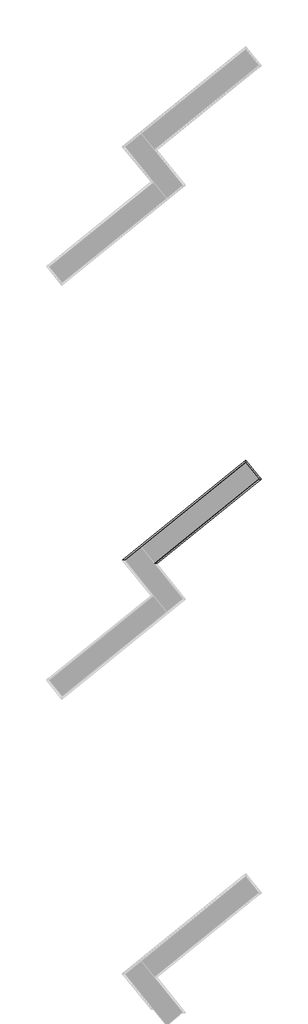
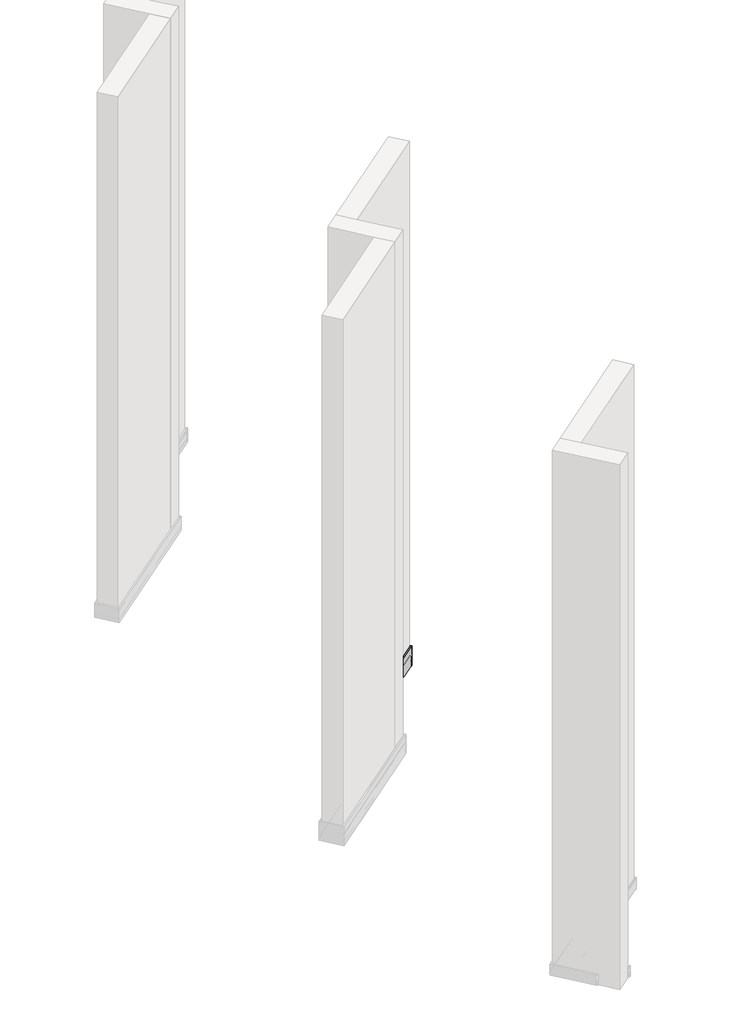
# One storey, part 10 of 21: 2 proxies.
"""IFC4 building model written with IfcOpenShell, lengths in millimetres."""

from ifc_helpers import new_model, si_unit, frame, origin, place, context, project, spatial, circle_curve, ellipse_curve, element, save
from ifc_brep_helpers import plane_surface, cylinder_surface, advanced_brep

model = new_model("IFC4")

# Units and contexts
model_context = context("Model", 3, world=origin())
ifc_project = project(units=[si_unit("LENGTHUNIT", "METRE", prefix="MILLI")], contexts=[model_context])

# Site, building, storey
site = spatial("IfcSite", under=ifc_project)
building = spatial("IfcBuilding", under=site)
storey = spatial("IfcBuildingStorey", under=building, Name="Izofleks 2D View", Elevation=0.0)

# Proxies
placement = place(None, origin())
element("IfcBuildingElementProxy", 1, Name="Wall Sweeps", at=placement, inside=storey, context=model_context, shape_type="AdvancedBrep", body=[
    advanced_brep(
    [(2291.5537649, -5174.0238176, 49.9746979), (2293.3982189, -5174.2176775, 48.8483083), (2292.7262724, -5174.1470531, 47.88979), (2289.8664199, -5173.8464705, 47.88979), (2289.8664199, -5173.8464705, 53.99999), (2288.0380278, -5173.6542987, 54.99999), (2288.0380278, -5173.6542987, 0.0), (2289.8664199, -5173.8464705, 0.0), (2289.8664199, -5173.8464705, 16.99999), (2296.8983438, -5174.5855554, 16.99999), (2296.8922655, -5174.5849166, 18.30079), (2294.6001982, -5174.3440106, 18.30079), (2297.3367663, -5174.6316355, 27.1404306), (2296.6513787, -5174.5595984, 27.7479135), (2295.2879611, -5174.4162974, 27.7479135), (2295.5576132, -5174.444639, 28.7655004), (2298.9439622, -5174.8005586, 28.7655004), (2298.9439622, -5174.8005586, 4.2583289), (2296.1306076, -5174.5048631, 4.2583289), (2296.1306076, -5174.5048631, 0.4656126), (2297.9590138, -5174.6970364, 0.4656126), (2297.9590138, -5174.6970364, 2.9583289), (2300.7723685, -5174.9927318, 2.9583289), (2300.7723685, -5174.9927318, 104.9583814), (2292.3335659, -5174.105778, 104.9583814), (2292.3335659, -5174.105778, 102.9584585), (2289.5206376, -5173.8101273, 102.9584585), (2289.5206376, -5173.8101273, 101.6584596), (2294.4432653, -5174.3275163, 101.6584596), (2294.4432653, -5174.3275163, 103.6583819), (2298.9439622, -5174.8005586, 103.6583819), (2298.9439622, -5174.8005586, 59.6553004), (2295.2404015, -5174.4112987, 59.6553004), (2293.8573559, -5174.2659347, 58.8370339), (2795.1255307, -4763.0229354, 49.9746979), (2796.3983848, -4761.9921985, 58.8370339), (2797.1625896, -4761.3733576, 59.6553004), (2799.2089999, -4759.7162072, 59.6553004), (2799.2089999, -4759.7162072, 103.6583819), (2796.7221303, -4761.7300345, 103.6583819), (2796.7221303, -4761.7300345, 101.6584596), (2794.0021219, -4763.9326539, 101.6584596), (2794.0021219, -4763.9326539, 102.9584585), (2795.5564114, -4762.6740151, 102.9584585), (2795.5564114, -4762.6740151, 104.9583814), (2800.2192896, -4758.8980907, 104.9583814), (2800.2192896, -4758.8980907, 2.9583289), (2798.6647646, -4760.1569203, 2.9583289), (2798.6647646, -4760.1569203, 0.4656126), (2797.6544748, -4760.9750368, 0.4656126), (2797.6544748, -4760.9750368, 4.2583289), (2799.2089999, -4759.7162072, 4.2583289), (2799.2089999, -4759.7162072, 28.7655004), (2797.3378655, -4761.2314219, 28.7655004), (2797.1888688, -4761.3520772, 27.7479135), (2797.942228, -4760.7420189, 27.7479135), (2798.3209404, -4760.4353436, 27.1404306), (2796.8088439, -4761.6598152, 18.30079), (2798.0753305, -4760.6342346, 18.30079), (2798.0786891, -4760.6315149, 16.99999), (2794.1931847, -4763.7779343, 16.99999), (2794.1931847, -4763.7779343, 0.0), (2793.1829027, -4764.5960445, 0.0), (2793.1829027, -4764.5960445, 54.99999), (2794.1931847, -4763.7779343, 53.99999), (2794.1931847, -4763.7779343, 47.88979), (2795.7734022, -4762.4982994, 47.88979), (2796.1446877, -4762.1976383, 48.8483083), (2796.6986398, -4764.9655634, 49.9746979), (2799.0022309, -4765.2076806, 58.8370339), (2800.3852765, -4765.3530445, 59.6553004), (2804.0888372, -4765.7423044, 59.6553004), (2804.0888372, -4765.7423044, 103.6583819), (2799.5881403, -4765.2692621, 103.6583819), (2799.5881403, -4765.2692621, 101.6584596), (2794.6655126, -4764.7518731, 101.6584596), (2794.6655126, -4764.7518731, 102.9584585), (2797.4784408, -4765.0475238, 102.9584585), (2797.4784408, -4765.0475238, 104.9583814), (2805.9172434, -4765.9344777, 104.9583814), (2805.9172434, -4765.9344777, 2.9583289), (2803.1038888, -4765.6387822, 2.9583289), (2803.1038888, -4765.6387822, 0.4656126), (2801.2754825, -4765.4466089, 0.4656126), (2801.2754825, -4765.4466089, 4.2583289), (2804.0888372, -4765.7423044, 4.2583289), (2804.0888372, -4765.7423044, 28.7655004), (2800.7024881, -4765.3863848, 28.7655004), (2800.4328361, -4765.3580432, 27.7479135), (2801.7962536, -4765.5013442, 27.7479135), (2802.4816413, -4765.5733813, 27.1404306), (2799.7450732, -4765.2857564, 18.30079), (2802.0371404, -4765.5266624, 18.30079), (2802.0432188, -4765.5273013, 16.99999), (2795.0112949, -4764.7882163, 16.99999), (2795.0112949, -4764.7882163, 0.0), (2795.0112949, -4764.7882163, 53.99999), (2795.0112949, -4764.7882163, 47.88979), (2797.8711473, -4765.0887989, 47.88979), (2798.5430938, -4765.1594233, 48.8483083)],
    [
        (0, 1, ellipse_curve(frame((2292.9368105, -5174.1691815, 49.7929644), z_axis=(-0.10452846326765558, -0.9945218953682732, 0.0), x_axis=(0.9945218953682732, -0.10452846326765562, 0.0)), 1.4142136, 1.0)),
        (1, 2),
        (2, 3),
        (3, 4),
        (4, 5, ellipse_curve(frame((2288.3885058, -5173.6911354, 53.9789482), z_axis=(-0.10452846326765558, -0.9945218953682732, 0.0), x_axis=(0.9945218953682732, -0.10452846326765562, 0.0)), 1.4863528, 1.0510102)),
        (5, 6),
        (6, 7),
        (7, 8),
        (8, 9),
        (9, 10, ellipse_curve(frame((2296.7280877, -5174.5676608, 17.649995), z_axis=(-0.10452846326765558, -0.9945218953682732, 0.0), x_axis=(0.9945218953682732, -0.10452846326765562, 0.0)), 0.935051, 0.6611809)),
        (10, 11),
        (11, 12),
        (12, 13, ellipse_curve(frame((2296.6499722, -5174.5594505, 27.2479135), z_axis=(-0.10452846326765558, -0.9945218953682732, 0.0), x_axis=(0.9945218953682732, -0.10452846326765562, 0.0)), 0.7071082, 0.500001)),
        (13, 14),
        (14, 15),
        (15, 16),
        (16, 17),
        (17, 18),
        (18, 19),
        (19, 20),
        (20, 21),
        (21, 22),
        (22, 23),
        (23, 24),
        (24, 25),
        (25, 26),
        (26, 27),
        (27, 28),
        (28, 29),
        (29, 30),
        (30, 31),
        (31, 32),
        (32, 33, ellipse_curve(frame((2295.2404015, -5174.4112987, 58.6553004), z_axis=(-0.10452846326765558, -0.9945218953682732, 0.0), x_axis=(0.9945218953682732, -0.10452846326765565, 0.0)), 1.4142136, 1.0)),
        (33, 0),
        (34, 35),
        (35, 36, circle_curve(frame((2797.1625896, -4761.3733576, 58.6553004), z_axis=(-0.6293203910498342, 0.7771459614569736, 0.0), x_axis=(-0.7642047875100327, -0.6188408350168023, 0.18173349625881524)), 1.0)),
        (36, 37),
        (37, 38),
        (38, 39),
        (39, 40),
        (40, 41),
        (41, 42),
        (42, 43),
        (43, 44),
        (44, 45),
        (45, 46),
        (46, 47),
        (47, 48),
        (48, 49),
        (49, 50),
        (50, 51),
        (51, 52),
        (52, 53),
        (53, 54),
        (54, 55),
        (55, 56, circle_curve(frame((2797.9414508, -4760.7426482, 27.2479135), z_axis=(-0.6293203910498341, 0.7771459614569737, 0.0), x_axis=(0.7771459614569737, 0.6293203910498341, 0.0)), 0.500001)),
        (56, 57),
        (57, 58),
        (58, 59, circle_curve(frame((2797.9846137, -4760.7076956, 17.649995), z_axis=(-0.6293203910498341, 0.7771459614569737, 0.0), x_axis=(0.7771459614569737, 0.6293203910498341, 0.0)), 0.6611809)),
        (59, 60),
        (60, 61),
        (61, 62),
        (62, 63),
        (63, 64, circle_curve(frame((2793.3765601, -4764.4392239, 53.9789482), z_axis=(-0.6293203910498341, 0.7771459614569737, 0.0), x_axis=(0.7771459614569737, 0.6293203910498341, 0.0)), 1.0510102)),
        (64, 65),
        (65, 66),
        (66, 67),
        (67, 34, circle_curve(frame((2795.8897355, -4762.4040945, 49.7929644), z_axis=(-0.6293203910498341, 0.7771459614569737, 0.0), x_axis=(0.7771459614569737, 0.6293203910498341, 0.0)), 1.0)),
        (34, 68),
        (68, 69),
        (69, 35),
        (69, 70, ellipse_curve(frame((2800.3852765, -4765.3530445, 58.6553004), z_axis=(0.10452846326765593, 0.994521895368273, 0.0), x_axis=(-0.994521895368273, 0.10452846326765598, 0.0)), 1.4142136, 1.0)),
        (70, 36),
        (70, 71),
        (71, 37),
        (71, 72),
        (72, 38),
        (72, 73),
        (73, 39),
        (73, 74),
        (74, 40),
        (74, 75),
        (75, 41),
        (75, 76),
        (76, 42),
        (76, 77),
        (77, 43),
        (77, 78),
        (78, 44),
        (78, 79),
        (79, 45),
        (79, 80),
        (80, 46),
        (80, 81),
        (81, 47),
        (81, 82),
        (82, 48),
        (82, 83),
        (83, 49),
        (83, 84),
        (84, 50),
        (84, 85),
        (85, 51),
        (85, 86),
        (86, 52),
        (86, 87),
        (87, 53),
        (87, 88),
        (88, 54),
        (88, 89),
        (89, 55),
        (89, 90, ellipse_curve(frame((2801.7948471, -4765.5011964, 27.2479135), z_axis=(0.1045284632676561, 0.994521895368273, 0.0), x_axis=(-0.994521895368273, 0.10452846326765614, 0.0)), 0.7071082, 0.500001)),
        (90, 56),
        (90, 91),
        (91, 57),
        (91, 92),
        (92, 58),
        (92, 93, ellipse_curve(frame((2801.8729627, -4765.5094066, 17.649995), z_axis=(0.1045284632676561, 0.994521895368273, 0.0), x_axis=(-0.994521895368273, 0.10452846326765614, 0.0)), 0.935051, 0.6611809)),
        (93, 59),
        (93, 94),
        (94, 60),
        (94, 95),
        (95, 61),
        (95, 62),
        (63, 96, ellipse_curve(frame((2793.5333808, -4764.6328812, 53.9789482), z_axis=(0.1045284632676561, 0.994521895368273, 0.0), x_axis=(-0.994521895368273, 0.10452846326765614, 0.0)), 1.4863528, 1.0510102)),
        (96, 64),
        (96, 97),
        (97, 65),
        (97, 98),
        (98, 66),
        (98, 99),
        (99, 67),
        (99, 68, ellipse_curve(frame((2798.0816855, -4765.1109273, 49.7929644), z_axis=(0.1045284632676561, 0.994521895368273, 0.0), x_axis=(-0.994521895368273, 0.10452846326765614, 0.0)), 1.4142136, 1.0)),
        (68, 0),
        (33, 69),
        (32, 70),
        (31, 71),
        (30, 72),
        (29, 73),
        (28, 74),
        (27, 75),
        (26, 76),
        (25, 77),
        (24, 78),
        (23, 79),
        (22, 80),
        (21, 81),
        (20, 82),
        (19, 83),
        (18, 84),
        (17, 85),
        (16, 86),
        (15, 87),
        (14, 88),
        (13, 89),
        (12, 90),
        (11, 91),
        (10, 92),
        (9, 93),
        (8, 94),
        (7, 95),
        (6, 62),
        (5, 63),
        (4, 96),
        (3, 97),
        (2, 98),
        (1, 99),
    ],
    [
        plane_surface(frame((2288.0380278, -5173.6542987, -304.8), z_axis=(-0.10452846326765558, -0.9945218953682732, 0.0), x_axis=(0.9945218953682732, -0.10452846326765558, 0.0))),
        plane_surface(frame((2793.1829027, -4764.5960445, 0.0), z_axis=(-0.6293203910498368, 0.7771459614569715, 0.0), x_axis=(0.7771459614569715, 0.6293203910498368, 0.0))),
        plane_surface(frame((2795.1255307, -4763.0229354, 49.9746979), z_axis=(-0.7642047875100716, -0.6188408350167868, 0.1817334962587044), x_axis=(0.6293203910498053, -0.777145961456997, 0.0))),
        cylinder_surface(frame((2797.1625896, -4761.3733576, 58.6553004), z_axis=(-0.6293203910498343, 0.7771459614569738, 0.0), x_axis=(-0.7642047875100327, -0.6188408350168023, 0.18173349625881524)), 1.0),
        plane_surface(frame((2797.1625896, -4761.3733576, 59.6553004), z_axis=(0.0, 0.0, 1.0000000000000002), x_axis=(0.6293203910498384, -0.7771459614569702, 0.0))),
        plane_surface(frame((2799.2089999, -4759.7162072, 59.6553004), z_axis=(-0.7771459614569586, -0.6293203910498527, 0.0), x_axis=(0.6293203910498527, -0.7771459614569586, 0.0))),
        plane_surface(frame((2799.2089999, -4759.7162072, 103.6583819), z_axis=(0.0, 0.0, -1.0000000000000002), x_axis=(0.6293203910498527, -0.7771459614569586, 0.0))),
        plane_surface(frame((2796.7221303, -4761.7300345, 103.6583819), z_axis=(0.7771459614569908, 0.629320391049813, 0.0), x_axis=(0.629320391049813, -0.7771459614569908, 0.0))),
        plane_surface(frame((2796.7221303, -4761.7300345, 101.6584596), z_axis=(0.0, 0.0, -1.0), x_axis=(0.629320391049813, -0.7771459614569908, 0.0))),
        plane_surface(frame((2794.0021219, -4763.9326539, 101.6584596), z_axis=(-0.7771459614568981, -0.6293203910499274, 0.0), x_axis=(0.6293203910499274, -0.7771459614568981, 0.0))),
        plane_surface(frame((2794.0021219, -4763.9326539, 102.9584585), z_axis=(0.0, 0.0, 1.0), x_axis=(0.6293203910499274, -0.7771459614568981, 0.0))),
        plane_surface(frame((2795.5564114, -4762.6740151, 102.9584585), z_axis=(-0.7771459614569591, -0.6293203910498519, 0.0), x_axis=(0.6293203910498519, -0.7771459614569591, 0.0))),
        plane_surface(frame((2795.5564114, -4762.6740151, 104.9583814), z_axis=(0.0, 0.0, 1.0), x_axis=(0.6293203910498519, -0.7771459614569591, 0.0))),
        plane_surface(frame((2800.2192896, -4758.8980907, 104.9583814), z_axis=(0.7771459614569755, 0.6293203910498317, 0.0), x_axis=(0.6293203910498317, -0.7771459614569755, 0.0))),
        plane_surface(frame((2800.2192896, -4758.8980907, 2.9583289), z_axis=(0.0, 0.0, -1.0), x_axis=(0.6293203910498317, -0.7771459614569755, 0.0))),
        plane_surface(frame((2798.6647646, -4760.1569203, 2.9583289), z_axis=(0.7771459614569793, 0.6293203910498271, 0.0), x_axis=(0.6293203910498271, -0.7771459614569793, 0.0))),
        plane_surface(frame((2798.6647646, -4760.1569203, 0.4656126), z_axis=(0.0, 0.0, -1.0), x_axis=(0.6293203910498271, -0.7771459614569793, 0.0))),
        plane_surface(frame((2797.6544748, -4760.9750368, 0.4656126), z_axis=(-0.7771459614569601, -0.6293203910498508, 0.0), x_axis=(0.6293203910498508, -0.7771459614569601, 0.0))),
        plane_surface(frame((2797.6544748, -4760.9750368, 4.2583289), z_axis=(0.0, 0.0, 1.0), x_axis=(0.6293203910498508, -0.7771459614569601, 0.0))),
        plane_surface(frame((2799.2089999, -4759.7162072, 4.2583289), z_axis=(-0.7771459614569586, -0.6293203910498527, 0.0), x_axis=(0.6293203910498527, -0.7771459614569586, 0.0))),
        plane_surface(frame((2799.2089999, -4759.7162072, 28.7655004), z_axis=(0.0, 0.0, -1.0000000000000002), x_axis=(0.6293203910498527, -0.7771459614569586, 0.0))),
        plane_surface(frame((2797.3378655, -4761.2314219, 28.7655004), z_axis=(0.7637090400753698, 0.6184393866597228, -0.18515190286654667), x_axis=(0.629320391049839, -0.7771459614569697, 0.0))),
        plane_surface(frame((2797.1888688, -4761.3520772, 27.7479135), z_axis=(0.0, 0.0, 1.0), x_axis=(0.6293203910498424, -0.7771459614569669, 0.0))),
        cylinder_surface(frame((2797.9414508, -4760.7426482, 27.2479135), z_axis=(-0.6293203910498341, 0.7771459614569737, 0.0), x_axis=(0.7771459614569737, 0.6293203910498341, 0.0)), 0.500001),
        plane_surface(frame((2798.3209404, -4760.4353436, 27.1404306), z_axis=(0.758977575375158, 0.614607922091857, -0.214965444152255), x_axis=(0.6293203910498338, -0.7771459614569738, 0.0))),
        plane_surface(frame((2796.8088439, -4761.6598152, 18.30079), z_axis=(0.0, 0.0, 1.0), x_axis=(0.6293203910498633, -0.77714596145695, 0.0))),
        cylinder_surface(frame((2797.9846137, -4760.7076956, 17.649995), z_axis=(-0.6293203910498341, 0.7771459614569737, 0.0), x_axis=(0.7771459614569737, 0.6293203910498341, 0.0)), 0.6611809),
        plane_surface(frame((2798.0786891, -4760.6315149, 16.99999), z_axis=(0.0, 0.0, -1.0000000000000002), x_axis=(0.6293203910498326, -0.7771459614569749, 0.0))),
        plane_surface(frame((2794.1931847, -4763.7779343, 16.99999), z_axis=(0.7771459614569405, 0.6293203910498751, 0.0), x_axis=(0.6293203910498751, -0.7771459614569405, 0.0))),
        plane_surface(frame((2794.1931847, -4763.7779343, 0.0), z_axis=(0.0, 0.0, -1.0000000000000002), x_axis=(0.6293203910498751, -0.7771459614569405, 0.0))),
        cylinder_surface(frame((2793.3765601, -4764.4392239, 53.9789482), z_axis=(-0.6293203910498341, 0.7771459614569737, 0.0), x_axis=(0.7771459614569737, 0.6293203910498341, 0.0)), 1.0510102),
        plane_surface(frame((2794.1931847, -4763.7779343, 53.99999), z_axis=(0.7771459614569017, 0.629320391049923, 0.0), x_axis=(0.629320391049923, -0.7771459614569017, 0.0))),
        plane_surface(frame((2794.1931847, -4763.7779343, 47.88979), z_axis=(0.0, 0.0, 1.0000000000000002), x_axis=(0.629320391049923, -0.7771459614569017, 0.0))),
        plane_surface(frame((2795.7734022, -4762.4982994, 47.88979), z_axis=(-0.6955364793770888, -0.5632343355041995, 0.44608977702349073), x_axis=(0.6293203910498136, -0.7771459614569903, 0.0))),
        cylinder_surface(frame((2795.8897355, -4762.4040945, 49.7929644), z_axis=(-0.6293203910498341, 0.7771459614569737, 0.0), x_axis=(0.7771459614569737, 0.6293203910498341, 0.0)), 1.0),
        plane_surface(frame((2796.6986398, -4764.9655634, 49.9746979), z_axis=(-0.6188408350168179, 0.7642047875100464, 0.18173349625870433), x_axis=(-0.7771459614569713, -0.6293203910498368, 0.0))),
        cylinder_surface(frame((2796.4055896, -4768.5757314, 58.6553004), z_axis=(0.7771459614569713, 0.629320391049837, 0.0), x_axis=(-0.618840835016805, 0.7642047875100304, 0.18173349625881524)), 1.0),
        plane_surface(frame((2800.3852765, -4765.3530445, 59.6553004), z_axis=(0.0, 0.0, 1.0000000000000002), x_axis=(-0.777145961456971, -0.6293203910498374, 0.0))),
        plane_surface(frame((2804.0888372, -4765.7423044, 59.6553004), z_axis=(-0.6293203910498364, 0.7771459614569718, 0.0), x_axis=(-0.7771459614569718, -0.6293203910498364, 0.0))),
        plane_surface(frame((2804.0888372, -4765.7423044, 103.6583819), z_axis=(0.0, 0.0, -1.0), x_axis=(-0.7771459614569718, -0.6293203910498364, 0.0))),
        plane_surface(frame((2799.5881403, -4765.2692621, 103.6583819), z_axis=(0.6293203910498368, -0.7771459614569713, 0.0), x_axis=(-0.7771459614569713, -0.6293203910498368, 0.0))),
        plane_surface(frame((2799.5881403, -4765.2692621, 101.6584596), z_axis=(0.0, 0.0, -1.0), x_axis=(-0.7771459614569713, -0.6293203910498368, 0.0))),
        plane_surface(frame((2794.6655126, -4764.7518731, 101.6584596), z_axis=(-0.6293203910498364, 0.7771459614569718, 0.0), x_axis=(-0.7771459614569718, -0.6293203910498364, 0.0))),
        plane_surface(frame((2794.6655126, -4764.7518731, 102.9584585), z_axis=(0.0, 0.0, 1.0), x_axis=(-0.7771459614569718, -0.6293203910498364, 0.0))),
        plane_surface(frame((2797.4784408, -4765.0475238, 102.9584585), z_axis=(-0.6293203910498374, 0.777145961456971, 0.0), x_axis=(-0.777145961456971, -0.6293203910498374, 0.0))),
        plane_surface(frame((2797.4784408, -4765.0475238, 104.9583814), z_axis=(0.0, 0.0, 1.0000000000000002), x_axis=(-0.777145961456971, -0.6293203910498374, 0.0))),
        plane_surface(frame((2805.9172434, -4765.9344777, 104.9583814), z_axis=(0.6293203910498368, -0.7771459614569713, 0.0), x_axis=(-0.7771459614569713, -0.6293203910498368, 0.0))),
        plane_surface(frame((2805.9172434, -4765.9344777, 2.9583289), z_axis=(0.0, 0.0, -1.0), x_axis=(-0.7771459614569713, -0.6293203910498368, 0.0))),
        plane_surface(frame((2803.1038888, -4765.6387822, 2.9583289), z_axis=(0.6293203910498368, -0.7771459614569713, 0.0), x_axis=(-0.7771459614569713, -0.6293203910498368, 0.0))),
        plane_surface(frame((2803.1038888, -4765.6387822, 0.4656126), z_axis=(0.0, 0.0, -1.0), x_axis=(-0.7771459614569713, -0.6293203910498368, 0.0))),
        plane_surface(frame((2801.2754825, -4765.4466089, 0.4656126), z_axis=(-0.6293203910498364, 0.7771459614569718, 0.0), x_axis=(-0.7771459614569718, -0.6293203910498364, 0.0))),
        plane_surface(frame((2801.2754825, -4765.4466089, 4.2583289), z_axis=(0.0, 0.0, 1.0), x_axis=(-0.7771459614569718, -0.6293203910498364, 0.0))),
        plane_surface(frame((2804.0888372, -4765.7423044, 4.2583289), z_axis=(-0.6293203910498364, 0.7771459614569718, 0.0), x_axis=(-0.7771459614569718, -0.6293203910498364, 0.0))),
        plane_surface(frame((2804.0888372, -4765.7423044, 28.7655004), z_axis=(0.0, 0.0, -1.0), x_axis=(-0.7771459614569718, -0.6293203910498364, 0.0))),
        plane_surface(frame((2800.7024881, -4765.3863848, 28.7655004), z_axis=(0.6184393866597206, -0.7637090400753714, -0.18515190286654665), x_axis=(-0.7771459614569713, -0.6293203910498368, 0.0))),
        plane_surface(frame((2800.4328361, -4765.3580432, 27.7479135), z_axis=(0.0, 0.0, 1.0000000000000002), x_axis=(-0.777145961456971, -0.6293203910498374, 0.0))),
        cylinder_surface(frame((2797.036299, -4769.3545927, 27.2479135), z_axis=(0.7771459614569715, 0.6293203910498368, 0.0), x_axis=(0.6293203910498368, -0.7771459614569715, 0.0)), 0.500001),
        plane_surface(frame((2802.4816413, -4765.5733813, 27.1404306), z_axis=(0.6146079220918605, -0.7589775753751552, -0.21496544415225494), x_axis=(-0.777145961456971, -0.6293203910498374, 0.0))),
        plane_surface(frame((2799.7450732, -4765.2857564, 18.30079), z_axis=(0.0, 0.0, 1.0), x_axis=(-0.7771459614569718, -0.6293203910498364, 0.0))),
        cylinder_surface(frame((2797.0712516, -4769.3977556, 17.649995), z_axis=(0.7771459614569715, 0.6293203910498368, 0.0), x_axis=(0.6293203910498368, -0.7771459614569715, 0.0)), 0.6611809),
        plane_surface(frame((2802.0432188, -4765.5273013, 16.99999), z_axis=(0.0, 0.0, -1.0), x_axis=(-0.7771459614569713, -0.6293203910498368, 0.0))),
        plane_surface(frame((2795.0112949, -4764.7882163, 16.99999), z_axis=(0.6293203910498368, -0.7771459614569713, 0.0), x_axis=(-0.7771459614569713, -0.6293203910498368, 0.0))),
        plane_surface(frame((2795.0112949, -4764.7882163, 0.0), z_axis=(0.0, 0.0, -1.0), x_axis=(-0.7771459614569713, -0.6293203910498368, 0.0))),
        plane_surface(frame((2793.1829027, -4764.5960445, 0.0), z_axis=(-0.6293203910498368, 0.7771459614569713, 0.0), x_axis=(-0.7771459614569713, -0.6293203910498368, 0.0))),
        cylinder_surface(frame((2793.3397234, -4764.7897019, 53.9789482), z_axis=(0.7771459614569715, 0.6293203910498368, 0.0), x_axis=(0.6293203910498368, -0.7771459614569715, 0.0)), 1.0510102),
        plane_surface(frame((2795.0112949, -4764.7882163, 53.99999), z_axis=(0.6293203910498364, -0.7771459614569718, 0.0), x_axis=(-0.7771459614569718, -0.6293203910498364, 0.0))),
        plane_surface(frame((2795.0112949, -4764.7882163, 47.88979), z_axis=(0.0, 0.0, 1.0), x_axis=(-0.7771459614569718, -0.6293203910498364, 0.0))),
        plane_surface(frame((2797.8711473, -4765.0887989, 47.88979), z_axis=(-0.5632343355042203, 0.6955364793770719, 0.44608977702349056), x_axis=(-0.7771459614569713, -0.6293203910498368, 0.0))),
        cylinder_surface(frame((2795.3748527, -4767.3028773, 49.7929644), z_axis=(0.7771459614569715, 0.6293203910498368, 0.0), x_axis=(0.6293203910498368, -0.7771459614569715, 0.0)), 1.0),
    ],
    [
        (0, [[1, 2, 3, 4, 5, 6, 7, 8, 9, 10, 11, 12, 13, 14, 15, 16, 17, 18, 19, 20, 21, 22, 23, 24, 25, 26, 27, 28, 29, 30, 31, 32, 33, 34]]),
        (1, [[35, 36, 37, 38, 39, 40, 41, 42, 43, 44, 45, 46, 47, 48, 49, 50, 51, 52, 53, 54, 55, 56, 57, 58, 59, 60, 61, 62, 63, 64, 65, 66, 67, 68]]),
        (2, [[-35, 69, 70, 71]]),
        (3, [[-36, -71, 72, 73]]),
        (4, [[-37, -73, 74, 75]]),
        (5, [[-38, -75, 76, 77]]),
        (6, [[-39, -77, 78, 79]]),
        (7, [[-40, -79, 80, 81]]),
        (8, [[-41, -81, 82, 83]]),
        (9, [[-42, -83, 84, 85]]),
        (10, [[-43, -85, 86, 87]]),
        (11, [[-44, -87, 88, 89]]),
        (12, [[-45, -89, 90, 91]]),
        (13, [[-46, -91, 92, 93]]),
        (14, [[-47, -93, 94, 95]]),
        (15, [[-48, -95, 96, 97]]),
        (16, [[-49, -97, 98, 99]]),
        (17, [[-50, -99, 100, 101]]),
        (18, [[-51, -101, 102, 103]]),
        (19, [[-52, -103, 104, 105]]),
        (20, [[-53, -105, 106, 107]]),
        (21, [[-54, -107, 108, 109]]),
        (22, [[-55, -109, 110, 111]]),
        (23, [[-56, -111, 112, 113]]),
        (24, [[-57, -113, 114, 115]]),
        (25, [[-58, -115, 116, 117]]),
        (26, [[-59, -117, 118, 119]]),
        (27, [[-60, -119, 120, 121]]),
        (28, [[-61, -121, 122, 123]]),
        (29, [[-62, -123, 124]]),
        (30, [[-64, 125, 126]]),
        (31, [[-65, -126, 127, 128]]),
        (32, [[-66, -128, 129, 130]]),
        (33, [[-67, -130, 131, 132]]),
        (34, [[-68, -132, 133, -69]]),
        (35, [[-70, 134, -34, 135]]),
        (36, [[-72, -135, -33, 136]]),
        (37, [[-74, -136, -32, 137]]),
        (38, [[-76, -137, -31, 138]]),
        (39, [[-78, -138, -30, 139]]),
        (40, [[-80, -139, -29, 140]]),
        (41, [[-82, -140, -28, 141]]),
        (42, [[-84, -141, -27, 142]]),
        (43, [[-86, -142, -26, 143]]),
        (44, [[-88, -143, -25, 144]]),
        (45, [[-90, -144, -24, 145]]),
        (46, [[-92, -145, -23, 146]]),
        (47, [[-94, -146, -22, 147]]),
        (48, [[-96, -147, -21, 148]]),
        (49, [[-98, -148, -20, 149]]),
        (50, [[-100, -149, -19, 150]]),
        (51, [[-102, -150, -18, 151]]),
        (52, [[-104, -151, -17, 152]]),
        (53, [[-106, -152, -16, 153]]),
        (54, [[-108, -153, -15, 154]]),
        (55, [[-110, -154, -14, 155]]),
        (56, [[-112, -155, -13, 156]]),
        (57, [[-114, -156, -12, 157]]),
        (58, [[-116, -157, -11, 158]]),
        (59, [[-118, -158, -10, 159]]),
        (60, [[-120, -159, -9, 160]]),
        (61, [[-122, -160, -8, 161]]),
        (62, [[-124, -161, -7, 162]]),
        (63, [[-63, -162, -6, 163]]),
        (64, [[-125, -163, -5, 164]]),
        (65, [[-127, -164, -4, 165]]),
        (66, [[-129, -165, -3, 166]]),
        (67, [[-131, -166, -2, 167]]),
        (68, [[-133, -167, -1, -134]]),
    ],
),
])
element("IfcBuildingElementProxy", 2, Name="Wall Sweeps", at=placement, inside=storey, context=model_context, shape_type="AdvancedBrep", body=[
    advanced_brep(
    [(2143.8756554, -5158.5022228, 49.9746979), (2141.5720643, -5158.2601056, 58.8370339), (2140.1890187, -5158.1147417, 59.6553004), (2136.485458, -5157.7254818, 59.6553004), (2136.485458, -5157.7254818, 103.6583819), (2140.9861549, -5158.1985241, 103.6583819), (2140.9861549, -5158.1985241, 101.6584596), (2145.9087826, -5158.7159131, 101.6584596), (2145.9087826, -5158.7159131, 102.9584585), (2143.0958544, -5158.4202624, 102.9584585), (2143.0958544, -5158.4202624, 104.9583814), (2134.6570518, -5157.5333085, 104.9583814), (2134.6570518, -5157.5333085, 2.9583289), (2137.4704064, -5157.829004, 2.9583289), (2137.4704064, -5157.829004, 0.4656126), (2139.2988127, -5158.0211772, 0.4656126), (2139.2988127, -5158.0211772, 4.2583289), (2136.485458, -5157.7254818, 4.2583289), (2136.485458, -5157.7254818, 28.7655004), (2139.8718071, -5158.0814014, 28.7655004), (2140.1414591, -5158.109743, 27.7479135), (2138.7780416, -5157.966442, 27.7479135), (2138.0926539, -5157.8944049, 27.1404306), (2140.829222, -5158.1820298, 18.30079), (2138.5371548, -5157.9411238, 18.30079), (2138.5310764, -5157.9404849, 16.99999), (2145.5630003, -5158.6795699, 16.99999), (2145.5630003, -5158.6795699, 0.0), (2147.3913925, -5158.8717417, 0.0), (2147.3913925, -5158.8717417, 54.99999), (2145.5630003, -5158.6795699, 53.99999), (2145.5630003, -5158.6795699, 47.88979), (2142.7031479, -5158.3789873, 47.88979), (2142.0312014, -5158.3083629, 48.8483083), (2800.8665741, -4770.1125335, 49.9746979), (2801.885731, -4769.2872365, 48.8483083), (2801.5144456, -4769.5878975, 47.88979), (2799.934228, -4770.8675324, 47.88979), (2799.934228, -4770.8675324, 53.99999), (2798.9239461, -4771.6856426, 54.99999), (2798.9239461, -4771.6856426, 0.0), (2799.934228, -4770.8675324, 0.0), (2799.934228, -4770.8675324, 16.99999), (2803.8197325, -4767.721113, 16.99999), (2803.8163739, -4767.7238327, 18.30079), (2802.5498873, -4768.7494134, 18.30079), (2804.0619837, -4767.5249418, 27.1404306), (2803.6832713, -4767.831617, 27.7479135), (2802.9299121, -4768.4416753, 27.7479135), (2803.0789089, -4768.3210201, 28.7655004), (2804.9500432, -4766.8058054, 28.7655004), (2804.9500432, -4766.8058054, 4.2583289), (2803.3955182, -4768.0646349, 4.2583289), (2803.3955182, -4768.0646349, 0.4656126), (2804.4058079, -4767.2465184, 0.4656126), (2804.4058079, -4767.2465184, 2.9583289), (2805.960333, -4765.9876889, 2.9583289), (2805.960333, -4765.9876889, 104.9583814), (2801.2974547, -4769.7636132, 104.9583814), (2801.2974547, -4769.7636132, 102.9584585), (2799.7431653, -4771.022252, 102.9584585), (2799.7431653, -4771.022252, 101.6584596), (2802.4631736, -4768.8196327, 101.6584596), (2802.4631736, -4768.8196327, 103.6583819), (2804.9500432, -4766.8058054, 103.6583819), (2804.9500432, -4766.8058054, 59.6553004), (2802.903633, -4768.4629557, 59.6553004), (2802.1394282, -4769.0817966, 58.8370339), (2730.6203825, -4683.3657112, 49.9746979), (2730.8142424, -4681.5212572, 48.8483083), (2730.743618, -4682.1932038, 47.88979), (2730.4430354, -4685.0530562, 47.88979), (2730.4430354, -4685.0530562, 53.99999), (2730.2508636, -4686.8814484, 54.99999), (2730.2508636, -4686.8814484, 0.0), (2793.1829027, -4764.5960445, 0.0), (2730.4430354, -4685.0530562, 0.0), (2730.4430354, -4685.0530562, 16.99999), (2731.1821203, -4678.0211323, 16.99999), (2731.1814815, -4678.0272106, 18.30079), (2730.9405755, -4680.3192779, 18.30079), (2731.2282004, -4677.5827098, 27.1404306), (2731.1561633, -4678.2680975, 27.7479135), (2731.0128623, -4679.631515, 27.7479135), (2731.0412039, -4679.361863, 28.7655004), (2731.3971235, -4675.9755139, 28.7655004), (2731.3971235, -4675.9755139, 4.2583289), (2731.101428, -4678.7888686, 4.2583289), (2731.101428, -4678.7888686, 0.4656126), (2731.2936013, -4676.9604623, 0.4656126), (2731.2936013, -4676.9604623, 2.9583289), (2731.5892967, -4674.1471077, 2.9583289), (2731.5892967, -4674.1471077, 104.9583814), (2730.7023428, -4682.5859103, 104.9583814), (2730.7023428, -4682.5859103, 102.9584585), (2730.4066922, -4685.3988385, 102.9584585), (2730.4066922, -4685.3988385, 101.6584596), (2730.9240812, -4680.4762108, 101.6584596), (2730.9240812, -4680.4762108, 103.6583819), (2731.3971235, -4675.9755139, 103.6583819), (2731.3971235, -4675.9755139, 59.6553004), (2731.0078636, -4679.6790746, 59.6553004), (2730.8624996, -4681.0621202, 58.8370339), (2225.1059886, -5095.9397026, 0.0)],
    [
        (0, 1),
        (1, 2, ellipse_curve(frame((2140.1890187, -5158.1147417, 58.6553004), z_axis=(-0.10452846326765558, -0.9945218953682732, 0.0), x_axis=(0.9945218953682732, -0.10452846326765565, 0.0)), 1.4142136, 1.0)),
        (2, 3),
        (3, 4),
        (4, 5),
        (5, 6),
        (6, 7),
        (7, 8),
        (8, 9),
        (9, 10),
        (10, 11),
        (11, 12),
        (12, 13),
        (13, 14),
        (14, 15),
        (15, 16),
        (16, 17),
        (17, 18),
        (18, 19),
        (19, 20),
        (20, 21),
        (21, 22, ellipse_curve(frame((2138.7794481, -5157.9665898, 27.2479135), z_axis=(-0.10452846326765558, -0.9945218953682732, 0.0), x_axis=(0.9945218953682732, -0.10452846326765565, 0.0)), 0.7071082, 0.500001)),
        (22, 23),
        (23, 24),
        (24, 25, ellipse_curve(frame((2138.7013325, -5157.9583796, 17.649995), z_axis=(-0.10452846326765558, -0.9945218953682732, 0.0), x_axis=(0.9945218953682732, -0.10452846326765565, 0.0)), 0.935051, 0.6611809)),
        (25, 26),
        (26, 27),
        (27, 28),
        (28, 29),
        (29, 30, ellipse_curve(frame((2147.0409144, -5158.8349049, 53.9789482), z_axis=(-0.10452846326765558, -0.9945218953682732, 0.0), x_axis=(0.9945218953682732, -0.10452846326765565, 0.0)), 1.4863528, 1.0510102)),
        (30, 31),
        (31, 32),
        (32, 33),
        (33, 0, ellipse_curve(frame((2142.4926097, -5158.3568588, 49.7929644), z_axis=(-0.10452846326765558, -0.9945218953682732, 0.0), x_axis=(0.9945218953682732, -0.10452846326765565, 0.0)), 1.4142136, 1.0)),
        (34, 35, circle_curve(frame((2801.6307788, -4769.4936927, 49.7929644), z_axis=(0.629320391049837, -0.7771459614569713, 0.0), x_axis=(0.7771459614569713, 0.629320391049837, 0.0)), 1.0)),
        (35, 36),
        (36, 37),
        (37, 38),
        (38, 39, circle_curve(frame((2799.1176035, -4771.528822, 53.9789482), z_axis=(0.629320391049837, -0.7771459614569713, 0.0), x_axis=(0.7771459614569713, 0.629320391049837, 0.0)), 1.0510102)),
        (39, 40),
        (40, 41),
        (41, 42),
        (42, 43),
        (43, 44, circle_curve(frame((2803.7256571, -4767.7972937, 17.649995), z_axis=(0.629320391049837, -0.7771459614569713, 0.0), x_axis=(0.7771459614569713, 0.629320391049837, 0.0)), 0.6611809)),
        (44, 45),
        (45, 46),
        (46, 47, circle_curve(frame((2803.6824942, -4767.8322463, 27.2479135), z_axis=(0.629320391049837, -0.7771459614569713, 0.0), x_axis=(0.7771459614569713, 0.629320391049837, 0.0)), 0.500001)),
        (47, 48),
        (48, 49),
        (49, 50),
        (50, 51),
        (51, 52),
        (52, 53),
        (53, 54),
        (54, 55),
        (55, 56),
        (56, 57),
        (57, 58),
        (58, 59),
        (59, 60),
        (60, 61),
        (61, 62),
        (62, 63),
        (63, 64),
        (64, 65),
        (65, 66),
        (66, 67, circle_curve(frame((2802.903633, -4768.4629557, 58.6553004), z_axis=(0.629320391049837, -0.7771459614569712, 0.0), x_axis=(-0.7642047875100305, -0.6188408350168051, 0.18173349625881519)), 1.0)),
        (67, 34),
        (34, 68),
        (68, 69, ellipse_curve(frame((2730.7657464, -4681.9826656, 49.7929644), z_axis=(0.9945218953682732, -0.10452846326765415, 0.0), x_axis=(-0.10452846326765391, -0.9945218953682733, 0.0)), 1.4142136, 1.0)),
        (69, 35),
        (69, 70),
        (70, 36),
        (70, 71),
        (71, 37),
        (71, 72),
        (72, 38),
        (72, 73, ellipse_curve(frame((2730.2877003, -4686.5309703, 53.9789482), z_axis=(0.9945218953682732, -0.10452846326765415, 0.0), x_axis=(-0.10452846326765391, -0.9945218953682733, 0.0)), 1.4863528, 1.0510102)),
        (73, 39),
        (73, 74),
        (74, 75),
        (75, 40),
        (74, 76),
        (76, 41),
        (76, 77),
        (77, 42),
        (77, 78),
        (78, 43),
        (78, 79, ellipse_curve(frame((2731.1642257, -4678.1913884, 17.649995), z_axis=(0.9945218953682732, -0.10452846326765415, 0.0), x_axis=(-0.10452846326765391, -0.9945218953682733, 0.0)), 0.935051, 0.6611809)),
        (79, 44),
        (79, 80),
        (80, 45),
        (80, 81),
        (81, 46),
        (81, 82, ellipse_curve(frame((2731.1560154, -4678.2695039, 27.2479135), z_axis=(0.9945218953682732, -0.10452846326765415, 0.0), x_axis=(-0.10452846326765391, -0.9945218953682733, 0.0)), 0.7071082, 0.500001)),
        (82, 47),
        (82, 83),
        (83, 48),
        (83, 84),
        (84, 49),
        (84, 85),
        (85, 50),
        (85, 86),
        (86, 51),
        (86, 87),
        (87, 52),
        (87, 88),
        (88, 53),
        (88, 89),
        (89, 54),
        (89, 90),
        (90, 55),
        (90, 91),
        (91, 56),
        (91, 92),
        (92, 57),
        (92, 93),
        (93, 58),
        (93, 94),
        (94, 59),
        (94, 95),
        (95, 60),
        (95, 96),
        (96, 61),
        (96, 97),
        (97, 62),
        (97, 98),
        (98, 63),
        (98, 99),
        (99, 64),
        (99, 100),
        (100, 65),
        (100, 101),
        (101, 66),
        (101, 102, ellipse_curve(frame((2731.0078636, -4679.6790746, 58.6553004), z_axis=(0.9945218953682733, -0.10452846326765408, 0.0), x_axis=(-0.10452846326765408, -0.9945218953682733, 0.0)), 1.4142136, 1.0)),
        (102, 67),
        (102, 68),
        (68, 0),
        (33, 69),
        (32, 70),
        (31, 71),
        (30, 72),
        (29, 73),
        (28, 103),
        (103, 74),
        (27, 76),
        (26, 77),
        (25, 78),
        (24, 79),
        (23, 80),
        (22, 81),
        (21, 82),
        (20, 83),
        (19, 84),
        (18, 85),
        (17, 86),
        (16, 87),
        (15, 88),
        (14, 89),
        (13, 90),
        (12, 91),
        (11, 92),
        (10, 93),
        (9, 94),
        (8, 95),
        (7, 96),
        (6, 97),
        (5, 98),
        (4, 99),
        (3, 100),
        (2, 101),
        (1, 102),
    ],
    [
        plane_surface(frame((2147.3913925, -5158.8717417, -304.8), z_axis=(-0.10452846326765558, -0.9945218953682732, 0.0), x_axis=(0.9945218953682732, -0.10452846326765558, 0.0))),
        plane_surface(frame((2798.9239461, -4771.6856426, 0.0), z_axis=(0.6293203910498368, -0.7771459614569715, 0.0), x_axis=(-0.7771459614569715, -0.6293203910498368, 0.0))),
        cylinder_surface(frame((2801.6307788, -4769.4936927, 49.7929644), z_axis=(0.629320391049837, -0.7771459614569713, 0.0), x_axis=(0.7771459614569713, 0.629320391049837, 0.0)), 1.0),
        plane_surface(frame((2801.885731, -4769.2872365, 48.8483083), z_axis=(-0.6955364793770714, -0.5632343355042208, 0.44608977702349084), x_axis=(-0.6293203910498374, 0.7771459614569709, 0.0))),
        plane_surface(frame((2801.5144456, -4769.5878975, 47.88979), z_axis=(0.0, 0.0, 1.0000000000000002), x_axis=(-0.6293203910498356, 0.7771459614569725, 0.0))),
        plane_surface(frame((2799.934228, -4770.8675324, 47.88979), z_axis=(0.7771459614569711, 0.6293203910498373, 0.0), x_axis=(-0.6293203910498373, 0.7771459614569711, 0.0))),
        cylinder_surface(frame((2799.1176035, -4771.528822, 53.9789482), z_axis=(0.629320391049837, -0.7771459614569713, 0.0), x_axis=(0.7771459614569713, 0.629320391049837, 0.0)), 1.0510102),
        plane_surface(frame((2798.9239461, -4771.6856426, 54.99999), z_axis=(-0.7771459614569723, -0.6293203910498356, 0.0), x_axis=(-0.6293203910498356, 0.7771459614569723, 0.0))),
        plane_surface(frame((2798.9239461, -4771.6856426, 0.0), z_axis=(0.0, 0.0, -1.0), x_axis=(-0.6293203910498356, 0.7771459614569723, 0.0))),
        plane_surface(frame((2799.934228, -4770.8675324, 0.0), z_axis=(0.7771459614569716, 0.6293203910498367, 0.0), x_axis=(-0.6293203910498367, 0.7771459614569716, 0.0))),
        plane_surface(frame((2799.934228, -4770.8675324, 16.99999), z_axis=(0.0, 0.0, -1.0), x_axis=(-0.6293203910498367, 0.7771459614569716, 0.0))),
        cylinder_surface(frame((2803.7256571, -4767.7972937, 17.649995), z_axis=(0.629320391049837, -0.7771459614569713, 0.0), x_axis=(0.7771459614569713, 0.629320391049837, 0.0)), 0.6611809),
        plane_surface(frame((2803.8163739, -4767.7238327, 18.30079), z_axis=(0.0, 0.0, 1.0), x_axis=(-0.6293203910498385, 0.7771459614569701, 0.0))),
        plane_surface(frame((2802.5498873, -4768.7494134, 18.30079), z_axis=(0.7589775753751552, 0.6146079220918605, -0.21496544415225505), x_axis=(-0.6293203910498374, 0.777145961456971, 0.0))),
        cylinder_surface(frame((2803.6824942, -4767.8322463, 27.2479135), z_axis=(0.629320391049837, -0.7771459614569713, 0.0), x_axis=(0.7771459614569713, 0.629320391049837, 0.0)), 0.500001),
        plane_surface(frame((2803.6832713, -4767.831617, 27.7479135), z_axis=(0.0, 0.0, 1.0000000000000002), x_axis=(-0.6293203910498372, 0.7771459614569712, 0.0))),
        plane_surface(frame((2802.9299121, -4768.4416753, 27.7479135), z_axis=(0.7637090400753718, 0.6184393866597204, -0.18515190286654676), x_axis=(-0.6293203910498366, 0.7771459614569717, 0.0))),
        plane_surface(frame((2803.0789089, -4768.3210201, 28.7655004), z_axis=(0.0, 0.0, -1.0), x_axis=(-0.6293203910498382, 0.7771459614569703, 0.0))),
        plane_surface(frame((2804.9500432, -4766.8058054, 28.7655004), z_axis=(-0.7771459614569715, -0.6293203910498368, 0.0), x_axis=(-0.6293203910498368, 0.7771459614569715, 0.0))),
        plane_surface(frame((2804.9500432, -4766.8058054, 4.2583289), z_axis=(0.0, 0.0, 1.0000000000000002), x_axis=(-0.6293203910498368, 0.7771459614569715, 0.0))),
        plane_surface(frame((2803.3955182, -4768.0646349, 4.2583289), z_axis=(-0.7771459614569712, -0.629320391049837, 0.0), x_axis=(-0.629320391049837, 0.7771459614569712, 0.0))),
        plane_surface(frame((2803.3955182, -4768.0646349, 0.4656126), z_axis=(0.0, 0.0, -1.0), x_axis=(-0.629320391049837, 0.7771459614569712, 0.0))),
        plane_surface(frame((2804.4058079, -4767.2465184, 0.4656126), z_axis=(0.7771459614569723, 0.6293203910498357, 0.0), x_axis=(-0.6293203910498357, 0.7771459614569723, 0.0))),
        plane_surface(frame((2804.4058079, -4767.2465184, 2.9583289), z_axis=(0.0, 0.0, -1.0), x_axis=(-0.6293203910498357, 0.7771459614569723, 0.0))),
        plane_surface(frame((2805.960333, -4765.9876889, 2.9583289), z_axis=(0.777145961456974, 0.6293203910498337, 0.0), x_axis=(-0.6293203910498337, 0.777145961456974, 0.0))),
        plane_surface(frame((2805.960333, -4765.9876889, 104.9583814), z_axis=(0.0, 0.0, 1.0000000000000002), x_axis=(-0.6293203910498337, 0.777145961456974, 0.0))),
        plane_surface(frame((2801.2974547, -4769.7636132, 104.9583814), z_axis=(-0.7771459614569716, -0.6293203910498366, 0.0), x_axis=(-0.6293203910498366, 0.7771459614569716, 0.0))),
        plane_surface(frame((2801.2974547, -4769.7636132, 102.9584585), z_axis=(0.0, 0.0, 1.0), x_axis=(-0.6293203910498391, 0.7771459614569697, 0.0))),
        plane_surface(frame((2799.7431653, -4771.022252, 102.9584585), z_axis=(-0.7771459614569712, -0.6293203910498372, 0.0), x_axis=(-0.6293203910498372, 0.7771459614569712, 0.0))),
        plane_surface(frame((2799.7431653, -4771.022252, 101.6584596), z_axis=(0.0, 0.0, -1.0000000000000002), x_axis=(-0.6293203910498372, 0.7771459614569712, 0.0))),
        plane_surface(frame((2802.4631736, -4768.8196327, 101.6584596), z_axis=(0.7771459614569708, 0.6293203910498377, 0.0), x_axis=(-0.6293203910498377, 0.7771459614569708, 0.0))),
        plane_surface(frame((2802.4631736, -4768.8196327, 103.6583819), z_axis=(0.0, 0.0, -1.0000000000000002), x_axis=(-0.6293203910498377, 0.7771459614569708, 0.0))),
        plane_surface(frame((2804.9500432, -4766.8058054, 103.6583819), z_axis=(-0.7771459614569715, -0.6293203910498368, 0.0), x_axis=(-0.6293203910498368, 0.7771459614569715, 0.0))),
        plane_surface(frame((2804.9500432, -4766.8058054, 59.6553004), z_axis=(0.0, 0.0, 1.0000000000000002), x_axis=(-0.6293203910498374, 0.777145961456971, 0.0))),
        cylinder_surface(frame((2802.903633, -4768.4629557, 58.6553004), z_axis=(0.6293203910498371, -0.7771459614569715, 0.0), x_axis=(-0.7642047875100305, -0.6188408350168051, 0.18173349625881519)), 1.0),
        plane_surface(frame((2802.1394282, -4769.0817966, 58.8370339), z_axis=(-0.7642047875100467, -0.6188408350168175, 0.1817334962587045), x_axis=(-0.6293203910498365, 0.7771459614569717, 0.0))),
        cylinder_surface(frame((2728.0589136, -4684.1746156, 49.7929644), z_axis=(0.7771459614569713, 0.629320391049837, 0.0), x_axis=(-0.629320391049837, 0.7771459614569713, 0.0)), 1.0),
        plane_surface(frame((2730.8142424, -4681.5212572, 48.8483083), z_axis=(0.5632343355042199, -0.695536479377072, 0.44608977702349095), x_axis=(-0.7771459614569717, -0.6293203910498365, 0.0))),
        plane_surface(frame((2730.743618, -4682.1932038, 47.88979), z_axis=(0.0, 0.0, 1.0), x_axis=(-0.7771459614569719, -0.6293203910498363, 0.0))),
        plane_surface(frame((2730.4430354, -4685.0530562, 47.88979), z_axis=(-0.629320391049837, 0.7771459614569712, 0.0), x_axis=(-0.7771459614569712, -0.629320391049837, 0.0))),
        cylinder_surface(frame((2730.0940429, -4686.687791, 53.9789482), z_axis=(0.7771459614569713, 0.629320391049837, 0.0), x_axis=(-0.629320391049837, 0.7771459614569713, 0.0)), 1.0510102),
        plane_surface(frame((2730.2508636, -4686.8814484, 54.99999), z_axis=(0.6293203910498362, -0.777145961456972, 0.0), x_axis=(-0.777145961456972, -0.6293203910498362, 0.0))),
        plane_surface(frame((2730.2508636, -4686.8814484, 0.0), z_axis=(0.0, 0.0, -1.0000000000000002), x_axis=(-0.777145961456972, -0.6293203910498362, 0.0))),
        plane_surface(frame((2730.4430354, -4685.0530562, 0.0), z_axis=(-0.6293203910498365, 0.7771459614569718, 0.0), x_axis=(-0.7771459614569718, -0.6293203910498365, 0.0))),
        plane_surface(frame((2730.4430354, -4685.0530562, 16.99999), z_axis=(0.0, 0.0, -1.0000000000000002), x_axis=(-0.7771459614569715, -0.6293203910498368, 0.0))),
        cylinder_surface(frame((2726.3625147, -4682.0797373, 17.649995), z_axis=(0.7771459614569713, 0.629320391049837, 0.0), x_axis=(-0.629320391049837, 0.7771459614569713, 0.0)), 0.6611809),
        plane_surface(frame((2731.1814815, -4678.0272106, 18.30079), z_axis=(0.0, 0.0, 1.0000000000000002), x_axis=(-0.777145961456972, -0.6293203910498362, 0.0))),
        plane_surface(frame((2730.9405755, -4680.3192779, 18.30079), z_axis=(-0.6146079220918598, 0.7589775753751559, -0.21496544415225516), x_axis=(-0.7771459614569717, -0.6293203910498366, 0.0))),
        cylinder_surface(frame((2726.3974673, -4682.1229002, 27.2479135), z_axis=(0.7771459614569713, 0.629320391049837, 0.0), x_axis=(-0.629320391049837, 0.7771459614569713, 0.0)), 0.500001),
        plane_surface(frame((2731.1561633, -4678.2680975, 27.7479135), z_axis=(0.0, 0.0, 1.0), x_axis=(-0.7771459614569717, -0.6293203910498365, 0.0))),
        plane_surface(frame((2731.0128623, -4679.631515, 27.7479135), z_axis=(-0.618439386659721, 0.7637090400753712, -0.1851519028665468), x_axis=(-0.7771459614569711, -0.6293203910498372, 0.0))),
        plane_surface(frame((2731.0412039, -4679.361863, 28.7655004), z_axis=(0.0, 0.0, -1.0), x_axis=(-0.7771459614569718, -0.6293203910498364, 0.0))),
        plane_surface(frame((2731.3971235, -4675.9755139, 28.7655004), z_axis=(0.6293203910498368, -0.7771459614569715, 0.0), x_axis=(-0.7771459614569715, -0.6293203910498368, 0.0))),
        plane_surface(frame((2731.3971235, -4675.9755139, 4.2583289), z_axis=(0.0, 0.0, 1.0000000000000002), x_axis=(-0.7771459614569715, -0.6293203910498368, 0.0))),
        plane_surface(frame((2731.101428, -4678.7888686, 4.2583289), z_axis=(0.6293203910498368, -0.7771459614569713, 0.0), x_axis=(-0.7771459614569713, -0.6293203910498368, 0.0))),
        plane_surface(frame((2731.101428, -4678.7888686, 0.4656126), z_axis=(0.0, 0.0, -1.0000000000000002), x_axis=(-0.7771459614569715, -0.6293203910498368, 0.0))),
        plane_surface(frame((2731.2936013, -4676.9604623, 0.4656126), z_axis=(-0.6293203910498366, 0.7771459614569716, 0.0), x_axis=(-0.7771459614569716, -0.6293203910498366, 0.0))),
        plane_surface(frame((2731.2936013, -4676.9604623, 2.9583289), z_axis=(0.0, 0.0, -1.0000000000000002), x_axis=(-0.7771459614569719, -0.6293203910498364, 0.0))),
        plane_surface(frame((2731.5892967, -4674.1471077, 2.9583289), z_axis=(-0.6293203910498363, 0.7771459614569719, 0.0), x_axis=(-0.7771459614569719, -0.6293203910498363, 0.0))),
        plane_surface(frame((2731.5892967, -4674.1471077, 104.9583814), z_axis=(0.0, 0.0, 1.0000000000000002), x_axis=(-0.7771459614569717, -0.6293203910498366, 0.0))),
        plane_surface(frame((2730.7023428, -4682.5859103, 104.9583814), z_axis=(0.6293203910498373, -0.7771459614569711, 0.0), x_axis=(-0.7771459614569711, -0.6293203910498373, 0.0))),
        plane_surface(frame((2730.7023428, -4682.5859103, 102.9584585), z_axis=(0.0, 0.0, 1.0000000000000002), x_axis=(-0.7771459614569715, -0.6293203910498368, 0.0))),
        plane_surface(frame((2730.4066922, -4685.3988385, 102.9584585), z_axis=(0.6293203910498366, -0.7771459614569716, 0.0), x_axis=(-0.7771459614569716, -0.6293203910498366, 0.0))),
        plane_surface(frame((2730.4066922, -4685.3988385, 101.6584596), z_axis=(0.0, 0.0, -1.0), x_axis=(-0.7771459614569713, -0.629320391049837, 0.0))),
        plane_surface(frame((2730.9240812, -4680.4762108, 101.6584596), z_axis=(-0.6293203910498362, 0.7771459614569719, 0.0), x_axis=(-0.7771459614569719, -0.6293203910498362, 0.0))),
        plane_surface(frame((2730.9240812, -4680.4762108, 103.6583819), z_axis=(0.0, 0.0, -1.0), x_axis=(-0.7771459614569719, -0.6293203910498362, 0.0))),
        plane_surface(frame((2731.3971235, -4675.9755139, 103.6583819), z_axis=(0.6293203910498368, -0.7771459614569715, 0.0), x_axis=(-0.7771459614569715, -0.6293203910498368, 0.0))),
        plane_surface(frame((2731.3971235, -4675.9755139, 59.6553004), z_axis=(0.0, 0.0, 1.0000000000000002), x_axis=(-0.7771459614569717, -0.6293203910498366, 0.0))),
        cylinder_surface(frame((2727.0281767, -4682.9017615, 58.6553004), z_axis=(0.7771459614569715, 0.6293203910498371, 0.0), x_axis=(0.6188408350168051, -0.7642047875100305, 0.18173349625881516)), 1.0),
        plane_surface(frame((2730.8624996, -4681.0621202, 58.8370339), z_axis=(0.6188408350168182, -0.7642047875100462, 0.18173349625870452), x_axis=(-0.7771459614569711, -0.6293203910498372, 0.0))),
    ],
    [
        (0, [[1, 2, 3, 4, 5, 6, 7, 8, 9, 10, 11, 12, 13, 14, 15, 16, 17, 18, 19, 20, 21, 22, 23, 24, 25, 26, 27, 28, 29, 30, 31, 32, 33, 34]]),
        (1, [[35, 36, 37, 38, 39, 40, 41, 42, 43, 44, 45, 46, 47, 48, 49, 50, 51, 52, 53, 54, 55, 56, 57, 58, 59, 60, 61, 62, 63, 64, 65, 66, 67, 68]]),
        (2, [[-35, 69, 70, 71]]),
        (3, [[-36, -71, 72, 73]]),
        (4, [[-37, -73, 74, 75]]),
        (5, [[-38, -75, 76, 77]]),
        (6, [[-39, -77, 78, 79]]),
        (7, [[-40, -79, 80, 81, 82]]),
        (8, [[-41, -82, -81, 83, 84]]),
        (9, [[-42, -84, 85, 86]]),
        (10, [[-43, -86, 87, 88]]),
        (11, [[-44, -88, 89, 90]]),
        (12, [[-45, -90, 91, 92]]),
        (13, [[-46, -92, 93, 94]]),
        (14, [[-47, -94, 95, 96]]),
        (15, [[-48, -96, 97, 98]]),
        (16, [[-49, -98, 99, 100]]),
        (17, [[-50, -100, 101, 102]]),
        (18, [[-51, -102, 103, 104]]),
        (19, [[-52, -104, 105, 106]]),
        (20, [[-53, -106, 107, 108]]),
        (21, [[-54, -108, 109, 110]]),
        (22, [[-55, -110, 111, 112]]),
        (23, [[-56, -112, 113, 114]]),
        (24, [[-57, -114, 115, 116]]),
        (25, [[-58, -116, 117, 118]]),
        (26, [[-59, -118, 119, 120]]),
        (27, [[-60, -120, 121, 122]]),
        (28, [[-61, -122, 123, 124]]),
        (29, [[-62, -124, 125, 126]]),
        (30, [[-63, -126, 127, 128]]),
        (31, [[-64, -128, 129, 130]]),
        (32, [[-65, -130, 131, 132]]),
        (33, [[-66, -132, 133, 134]]),
        (34, [[-67, -134, 135, 136]]),
        (35, [[-68, -136, 137, -69]]),
        (36, [[-70, 138, -34, 139]]),
        (37, [[-72, -139, -33, 140]]),
        (38, [[-74, -140, -32, 141]]),
        (39, [[-76, -141, -31, 142]]),
        (40, [[-78, -142, -30, 143]]),
        (41, [[-80, -143, -29, 144, 145]]),
        (42, [[-83, -145, -144, -28, 146]]),
        (43, [[-85, -146, -27, 147]]),
        (44, [[-87, -147, -26, 148]]),
        (45, [[-89, -148, -25, 149]]),
        (46, [[-91, -149, -24, 150]]),
        (47, [[-93, -150, -23, 151]]),
        (48, [[-95, -151, -22, 152]]),
        (49, [[-97, -152, -21, 153]]),
        (50, [[-99, -153, -20, 154]]),
        (51, [[-101, -154, -19, 155]]),
        (52, [[-103, -155, -18, 156]]),
        (53, [[-105, -156, -17, 157]]),
        (54, [[-107, -157, -16, 158]]),
        (55, [[-109, -158, -15, 159]]),
        (56, [[-111, -159, -14, 160]]),
        (57, [[-113, -160, -13, 161]]),
        (58, [[-115, -161, -12, 162]]),
        (59, [[-117, -162, -11, 163]]),
        (60, [[-119, -163, -10, 164]]),
        (61, [[-121, -164, -9, 165]]),
        (62, [[-123, -165, -8, 166]]),
        (63, [[-125, -166, -7, 167]]),
        (64, [[-127, -167, -6, 168]]),
        (65, [[-129, -168, -5, 169]]),
        (66, [[-131, -169, -4, 170]]),
        (67, [[-133, -170, -3, 171]]),
        (68, [[-135, -171, -2, 172]]),
        (69, [[-137, -172, -1, -138]]),
    ],
),
])

save(model, "model.ifc")
